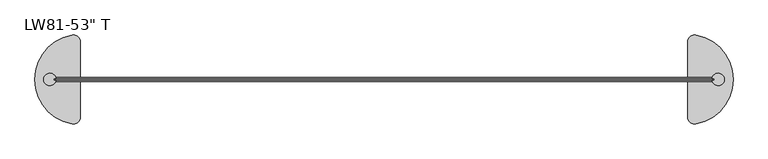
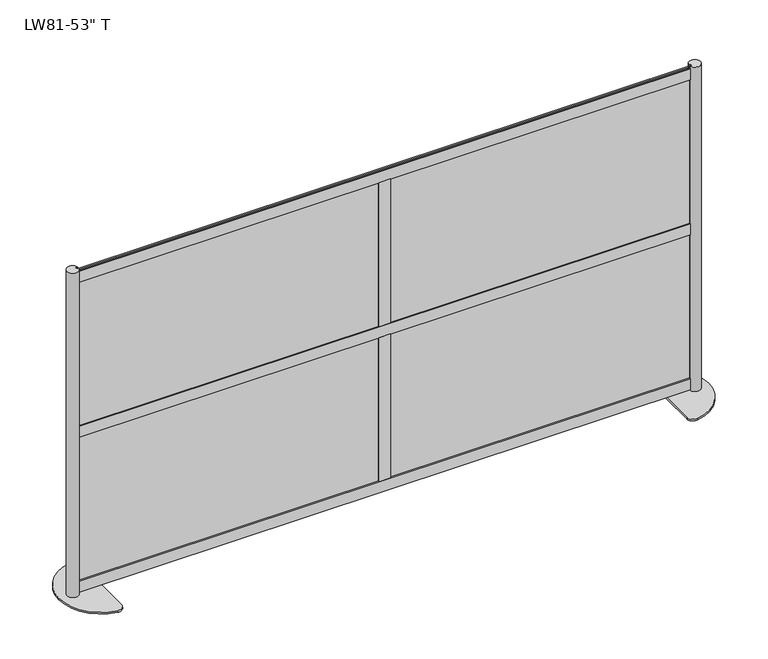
"""IFC4 building model written with IfcOpenShell, lengths in millimetres: furniture geometry."""

from ifc_helpers import new_model, si_unit, point, frame, frame_2d, origin, origin_with_axes, place, context, project, spatial, polyline, circle_curve, trimmed, segment, composite_curve, outline, extrude, source, transform, mapped, element, save


def furniture_960380eb(model_context):
    return source(origin(), model_context, "Body", "SweptSolid", [
        extrude(outline(polyline([(1208.4321897, -1.5875), (19.3946897, -1.5875), (19.3946897, 1.5875), (1208.4321897, 1.5875), (1208.4321897, -1.5875)])), frame((0.0, 0.0, 49.2633), z_axis=(0.0, 0.0, 1.0), x_axis=(1.0, 0.0, 0.0)), (0.0, 0.0, 1.0), 608.965),
        extrude(outline(polyline([(-14.6411349, -1.5875), (-1203.6786349, -1.5875), (-1203.6786349, 1.5875), (-14.6411349, 1.5875), (-14.6411349, -1.5875)])), frame((0.0, 0.0, 49.2633), z_axis=(0.0, 0.0, 1.0), x_axis=(1.0, 0.0, 0.0)), (0.0, 0.0, 1.0), 608.965),
        extrude(outline(polyline([(1208.4321897, -1.5875), (19.3946897, -1.5875), (19.3946897, 1.5875), (1208.4321897, 1.5875), (1208.4321897, -1.5875)])), frame((0.0, 0.0, 689.2671), z_axis=(0.0, 0.0, 1.0), x_axis=(1.0, 0.0, 0.0)), (0.0, 0.0, 1.0), 608.965),
        extrude(outline(polyline([(-14.6411349, -1.5875), (-1203.6786349, -1.5875), (-1203.6786349, 1.5875), (-14.6411349, 1.5875), (-14.6411349, -1.5875)])), frame((0.0, 0.0, 689.2671), z_axis=(0.0, 0.0, 1.0), x_axis=(1.0, 0.0, 0.0)), (0.0, 0.0, 1.0), 608.965),
        extrude(outline(polyline([(22.6314, 3.556), (15.5194, 3.556), (15.5194, -3.556), (22.6314, -3.556), (22.6314, -7.6327), (-22.6314, -7.6327), (-22.6314, -3.556), (-15.5194, -3.556), (-15.5194, 3.556), (-22.6314, 3.556), (-22.6314, 7.6327), (22.6314, 7.6327), (22.6314, 3.556)])), frame((0.0, 0.0, 56.3753), z_axis=(0.0, 0.0, 1.0), x_axis=(1.0, 0.0, 0.0)), (0.0, 0.0, 1.0), 594.741),
        extrude(outline(polyline([(22.6314, 3.556), (15.5194, 3.556), (15.5194, -3.556), (22.6314, -3.556), (22.6314, -7.6327), (-22.6314, -7.6327), (-22.6314, -3.556), (-15.5194, -3.556), (-15.5194, 3.556), (-22.6314, 3.556), (-22.6314, 7.6327), (22.6314, 7.6327), (22.6314, 3.556)])), frame((0.0, 0.0, 696.3791), z_axis=(0.0, 0.0, 1.0), x_axis=(1.0, 0.0, 0.0)), (0.0, 0.0, 1.0), 594.741),
        extrude(outline(polyline([(3.556, 651.1163), (3.556, 658.2283), (-3.556, 658.2283), (-3.556, 651.1163), (-7.6327, 651.1163), (-7.6327, 696.3791), (-3.556, 696.3791), (-3.556, 689.2671), (3.556, 689.2671), (3.556, 696.3791), (7.6327, 696.3791), (7.6327, 651.1163), (3.556, 651.1163)])), frame((-1194.5874, 0.0, 0.0), z_axis=(1.0, 0.0, 0.0), x_axis=(0.0, 1.0, 0.0)), (0.0, 0.0, 1.0), 2389.1748),
        extrude(outline(polyline([(3.556, 11.1125), (3.556, 18.2245), (-3.556, 18.2245), (-3.556, 11.1125), (-7.6327, 11.1125), (-7.6327, 56.3753), (-3.556, 56.3753), (-3.556, 49.2633), (3.556, 49.2633), (3.556, 56.3753), (7.6327, 56.3753), (7.6327, 11.1125), (3.556, 11.1125)])), frame((-1194.6636, 0.0, 0.0), z_axis=(1.0, 0.0, 0.0), x_axis=(0.0, 1.0, 0.0)), (0.0, 0.0, 1.0), 2389.3272),
        extrude(outline(polyline([(3.556, 1291.1200292), (3.556, 1298.2320292), (-3.556, 1298.2320292), (-3.556, 1291.1200292), (-7.6327, 1291.1200292), (-7.6327, 1336.3828292), (-3.556, 1336.3828292), (-3.556, 1329.2708292), (3.556, 1329.2708292), (3.556, 1336.3828292), (7.6327, 1336.3828292), (7.6327, 1291.1200292), (3.556, 1291.1200292)])), frame((-1194.6636, 0.0, 0.0), z_axis=(1.0, 0.0, 0.0), x_axis=(0.0, 1.0, 0.0)), (0.0, 0.0, 1.0), 2389.3272),
        extrude(outline(composite_curve([segment(polyline([(1194.6636, -7.7568093), (1194.6636, -3.556), (1201.7756, -3.556), (1201.7756, 3.556), (1194.6636, 3.556), (1194.6636, 7.7568093)]), True, "CONTINUOUS"), segment(trimmed(circle_curve(frame_2d((1215.7665837, 0.0)), 22.4834163), [point((1194.6636, 7.7568093))], [point((1194.6636, -7.7568093))], False, "CARTESIAN"), True, "CONTINUOUS")], self_intersect=False)), frame((0.0, 0.0, 6.35), z_axis=(0.0, 0.0, 1.0), x_axis=(1.0, 0.0, 0.0)), (0.0, 0.0, 1.0), 1339.85),
        extrude(outline(composite_curve([segment(polyline([(1104.9, -137.3715036), (1104.9, 137.3715036)]), True, "CONTINUOUS"), segment(trimmed(circle_curve(frame_2d((1130.3, 137.3715036)), 25.4), [point((1104.9, 137.3715036))], [point((1134.9181818, 162.3481406))], False, "CARTESIAN"), True, "CONTINUOUS"), segment(trimmed(circle_curve(frame_2d((1104.9, 0.0)), 165.1), [point((1134.9181818, 162.3481406))], [point((1270.0, 0.0))], False, "CARTESIAN"), True, "CONTINUOUS"), segment(trimmed(circle_curve(frame_2d((1104.9, 0.0)), 165.1), [point((1270.0, 0.0))], [point((1134.9181818, -162.3481406))], False, "CARTESIAN"), True, "CONTINUOUS"), segment(trimmed(circle_curve(frame_2d((1130.3, -137.3715036)), 25.4), [point((1134.9181818, -162.3481406))], [point((1104.9, -137.3715036))], False, "CARTESIAN"), True, "CONTINUOUS")], self_intersect=False)), origin_with_axes(), (0.0, 0.0, 1.0), 6.35),
        extrude(outline(composite_curve([segment(trimmed(circle_curve(frame_2d((-1215.7665837, 0.0)), 22.4834163), [point((-1194.6636, -7.7568093))], [point((-1194.6636, 7.7568093))], False, "CARTESIAN"), True, "CONTINUOUS"), segment(polyline([(-1194.6636, 7.7568093), (-1194.6636, 3.556), (-1201.7756, 3.556), (-1201.7756, -3.556), (-1194.6636, -3.556), (-1194.6636, -7.7568093)]), True, "CONTINUOUS")], self_intersect=False)), frame((0.0, 0.0, 6.35), z_axis=(0.0, 0.0, 1.0), x_axis=(1.0, 0.0, 0.0)), (0.0, 0.0, 1.0), 1339.85),
        extrude(outline(composite_curve([segment(trimmed(circle_curve(frame_2d((-1130.3, -137.3715036)), 25.4), [point((-1104.9, -137.3715036))], [point((-1134.9181818, -162.3481406))], False, "CARTESIAN"), True, "CONTINUOUS"), segment(trimmed(circle_curve(frame_2d((-1104.9, 0.0)), 165.1), [point((-1134.9181818, -162.3481406))], [point((-1270.0, 0.0))], False, "CARTESIAN"), True, "CONTINUOUS"), segment(trimmed(circle_curve(frame_2d((-1104.9, 0.0)), 165.1), [point((-1270.0, 0.0))], [point((-1134.9181818, 162.3481406))], False, "CARTESIAN"), True, "CONTINUOUS"), segment(trimmed(circle_curve(frame_2d((-1130.3, 137.3715036)), 25.4), [point((-1134.9181818, 162.3481406))], [point((-1104.9, 137.3715036))], False, "CARTESIAN"), True, "CONTINUOUS"), segment(polyline([(-1104.9, 137.3715036), (-1104.9, -137.3715036)]), True, "CONTINUOUS")], self_intersect=False)), origin_with_axes(), (0.0, 0.0, 1.0), 6.35),
    ])


if __name__ == "__main__":
    model = new_model("IFC4")
    model_context = context("Model", 3, world=origin())
    ifc_project = project(units=[si_unit("LENGTHUNIT", "METRE", prefix="MILLI")], contexts=[model_context])
    site = spatial("IfcSite", under=ifc_project)
    building = spatial("IfcBuilding", under=site)
    placement = place(None, origin())
    furniture_shape = furniture_960380eb(model_context)
    element("IfcFurniture", 1, ObjectType="Loft_Wall-Framewall-100 : LW81-53\" T", at=placement, inside=building, context=model_context, shape_type="MappedRepresentation", body=[
        mapped(furniture_shape, transform((0.0, 0.0, 0.0), x_axis=(1.0, 0.0, 0.0), y_axis=(0.0, 1.0, 0.0), z_axis=(0.0, 0.0, 1.0))),
    ])
    save(model, "model.ifc")
